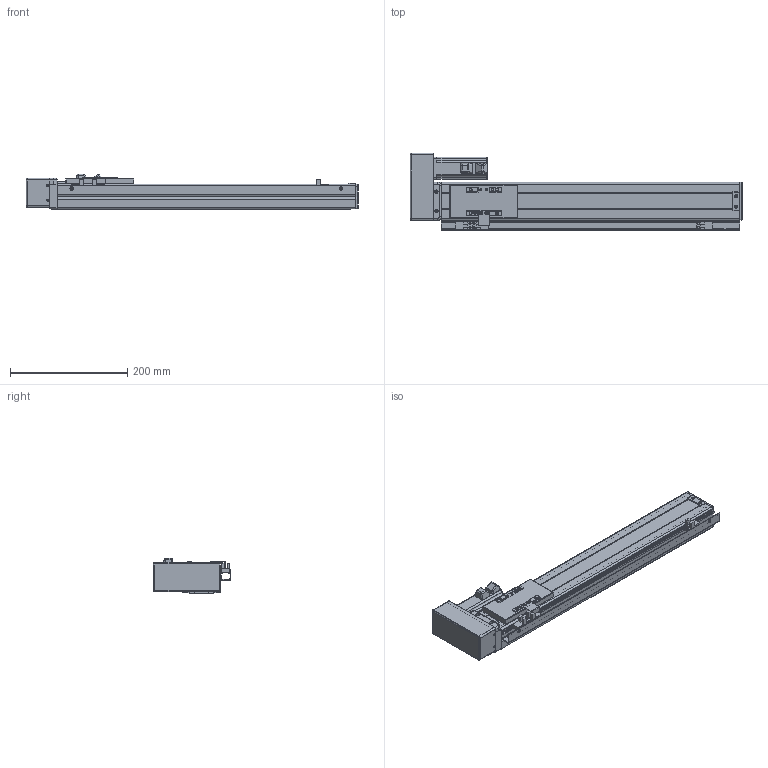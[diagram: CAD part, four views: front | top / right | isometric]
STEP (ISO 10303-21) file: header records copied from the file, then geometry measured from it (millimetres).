
FILE_DESCRIPTION (( 'STEP AP203' ), '1' );
FILE_NAME ('VT6-L10-C-S360-BR-P10-D4.STEP', '2015-10-26T06:16:31', ( '' ), ( '' ), 'SwSTEP 2.0', 'SolidWorks 2013', '' );
FILE_SCHEMA (( 'CONFIG_CONTROL_DESIGN' ));
Length unit declared in the file: millimetre
Products named in the file (17): ET6-BC耜啣_360; T6-賑雄殤; T6-裔啣; T6-揤輸; T6-綴傷裔; ET6-BLRM絳寢_俴最360; ET6-BLRM滅鳥湍_360; ET6-BLRM佪裝_360; T6-BMLRヶ傷裔; T6-BMRLヶ傷裔揤啣; T6-BMRL肮祭湍謫欶; 侂狟100W MSMD012G1U; T6-BRL萇儂假蚾啣; T6-覜茼え; ET6-BC癹弇羲壽羞_360; EE-XS674; VT6-L10-C-S360-BR-P10-D4
Assembly tree (19 placements, depth 2):
  VT6-L10-C-S360-BR-P10-D4
    ET6-BC耜啣_360  x2
    T6-賑雄殤
    T6-裔啣
    T6-揤輸
    T6-綴傷裔
    ET6-BLRM絳寢_俴最360
    ET6-BLRM滅鳥湍_360
    ET6-BLRM佪裝_360
    T6-BMLRヶ傷裔
    T6-BMRLヶ傷裔揤啣
    T6-BMRL肮祭湍謫欶
    侂狟100W MSMD012G1U
    T6-BRL萇儂假蚾啣
    T6-覜茼え
    ET6-BC癹弇羲壽羞_360
    EE-XS674  x3
Bounding box: 567 x 133 x 61 mm (x, y, z)
Volume: 743823.5 mm3; surface area: 455990.1 mm2
Topology: 19 solids, 19 shells, 893 faces, 2364 edges, 1496 vertices
Faces by surface type: cylinder 419, plane 374, cone 46, torus 36, sphere 18
Entity records: 27545 total; most frequent: CARTESIAN_POINT 4633, DIRECTION 4602, ORIENTED_EDGE 4246, EDGE_CURVE 2123, AXIS2_PLACEMENT_3D 1685, VERTEX_POINT 1356, VECTOR 1232, LINE 1232
